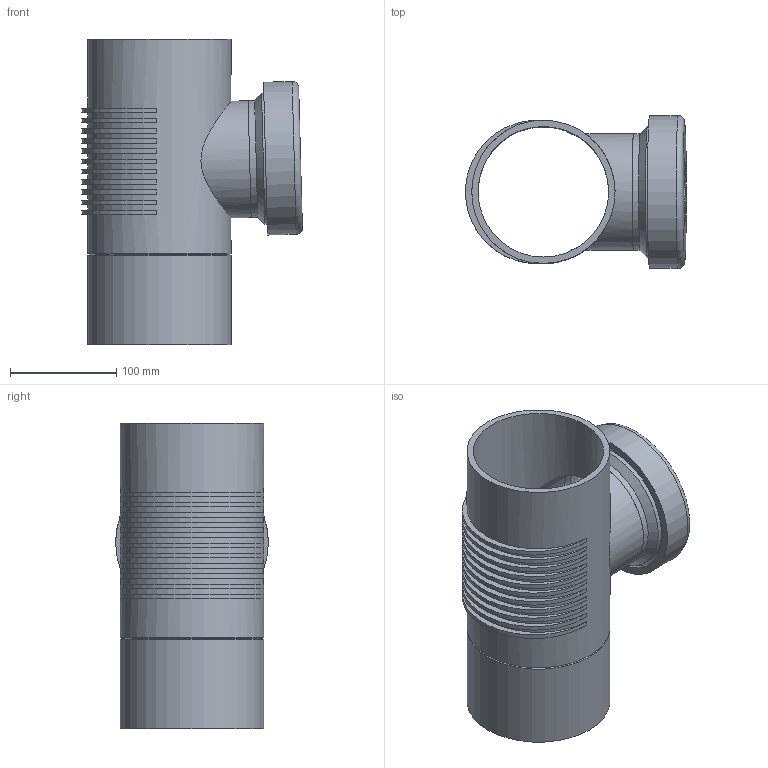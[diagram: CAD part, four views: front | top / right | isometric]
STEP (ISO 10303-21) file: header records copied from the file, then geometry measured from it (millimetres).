
FILE_DESCRIPTION(/* description */ (''),/* implementation_level */ '2;1');
FILE_NAME(/* name */ 'Z:\Geberit\Export\NewStep\312333.stp',/* time_stamp */ '2014-04-01T20:11:32+02:00',/* author */ ('ML'),/* organization */ (''),/* preprocessor_version */ 'ST-DEVELOPER v15.2',/* originating_system */ 'Autodesk Inventor 2014',/* authorisation */ '');
FILE_SCHEMA (('AUTOMOTIVE_DESIGN { 1 0 10303 214 3 1 1 }'));
Length unit declared in the file: millimetre
Products named in the file (4): 862701; 853720; 853404; 312333
Bounding box: 207.97 x 144 x 288 mm (x, y, z)
Volume: 1073936.1 mm3; surface area: 361058.4 mm2
Topology: 3 solids, 3 shells, 96 faces, 236 edges, 154 vertices
Faces by surface type: plane 45, cylinder 43, cone 7, torus 1
Full cylindrical faces by diameter (mm): 8 x2, 78 x1, 101.4 x2, 110 x2, 111.5 x1, 123 x1, 123.4 x2, 130 x2, 135 x2, 144 x1
Entity records: 2750 total; most frequent: CARTESIAN_POINT 531, DIRECTION 484, ORIENTED_EDGE 344, AXIS2_PLACEMENT_3D 211, EDGE_CURVE 172, EDGE_LOOP 146, VERTEX_POINT 126, CIRCLE 108
